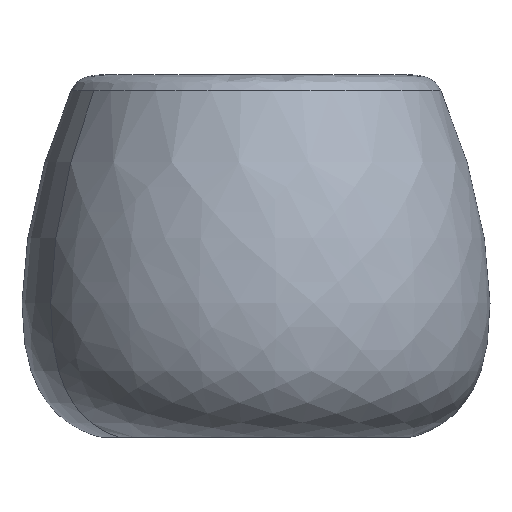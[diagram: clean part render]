
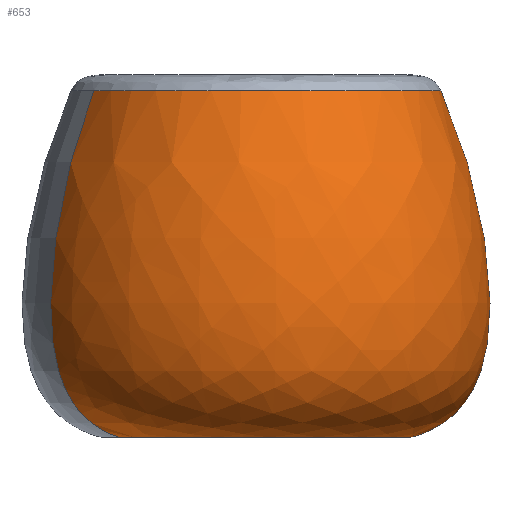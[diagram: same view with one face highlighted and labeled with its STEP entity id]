
A CAD part, left-side view. The second image highlights one B-rep face of the part: STEP entity #653.
In plain terms, the highlighted face is a revolution surface.
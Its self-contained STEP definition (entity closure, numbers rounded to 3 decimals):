
#482=CARTESIAN_POINT('Vertex',(0.,-170.8,0.206)) ;
#485=CARTESIAN_POINT('Axis2P3D Location',(0.,0.,0.206)) ;
#489=CARTESIAN_POINT('Vertex',(-81.886,149.891,0.206)) ;
#581=CARTESIAN_POINT('Control Point',(-97.707,178.851,382.042)) ;
#582=CARTESIAN_POINT('Control Point',(-100.501,183.966,369.379)) ;
#583=CARTESIAN_POINT('Control Point',(-103.184,188.878,355.883)) ;
#584=CARTESIAN_POINT('Control Point',(-105.755,193.584,341.56)) ;
#585=CARTESIAN_POINT('Control Point',(-118.245,216.446,264.508)) ;
#586=CARTESIAN_POINT('Control Point',(-126.847,232.192,169.407)) ;
#587=CARTESIAN_POINT('Control Point',(-129.153,236.413,88.686)) ;
#588=CARTESIAN_POINT('Control Point',(-117.224,214.577,29.882)) ;
#589=CARTESIAN_POINT('Control Point',(-88.893,162.717,4.75)) ;
#590=CARTESIAN_POINT('Control Point',(-86.652,158.615,3.041)) ;
#591=CARTESIAN_POINT('Control Point',(-84.316,154.339,1.526)) ;
#592=CARTESIAN_POINT('Control Point',(-81.886,149.891,0.206)) ;
#593=CARTESIAN_POINT('Vertex',(-97.707,178.851,382.042)) ;
#610=CARTESIAN_POINT('Control Point',(0.,203.8,382.042)) ;
#611=CARTESIAN_POINT('Control Point',(0.,209.628,369.379)) ;
#612=CARTESIAN_POINT('Control Point',(0.,215.225,355.883)) ;
#613=CARTESIAN_POINT('Control Point',(0.,220.588,341.56)) ;
#614=CARTESIAN_POINT('Control Point',(0.,246.639,264.508)) ;
#615=CARTESIAN_POINT('Control Point',(0.,264.581,169.407)) ;
#616=CARTESIAN_POINT('Control Point',(0.,269.391,88.686)) ;
#617=CARTESIAN_POINT('Control Point',(0.,244.509,29.882)) ;
#618=CARTESIAN_POINT('Control Point',(0.,185.415,4.75)) ;
#619=CARTESIAN_POINT('Control Point',(0.,180.74,3.041)) ;
#620=CARTESIAN_POINT('Control Point',(0.,175.869,1.526)) ;
#621=CARTESIAN_POINT('Control Point',(0.,170.8,0.206)) ;
#622=CARTESIAN_POINT('Axis1P Location',(0.,0.,217.5)) ;
#627=CARTESIAN_POINT('Control Point',(0.,-203.8,382.042)) ;
#628=CARTESIAN_POINT('Control Point',(0.,-209.628,369.379)) ;
#629=CARTESIAN_POINT('Control Point',(0.,-215.225,355.883)) ;
#630=CARTESIAN_POINT('Control Point',(0.,-220.588,341.56)) ;
#631=CARTESIAN_POINT('Control Point',(0.,-246.639,264.508)) ;
#632=CARTESIAN_POINT('Control Point',(0.,-264.581,169.407)) ;
#633=CARTESIAN_POINT('Control Point',(0.,-269.391,88.686)) ;
#634=CARTESIAN_POINT('Control Point',(0.,-244.509,29.882)) ;
#635=CARTESIAN_POINT('Control Point',(0.,-185.415,4.75)) ;
#636=CARTESIAN_POINT('Control Point',(0.,-180.74,3.041)) ;
#637=CARTESIAN_POINT('Control Point',(0.,-175.869,1.526)) ;
#638=CARTESIAN_POINT('Control Point',(0.,-170.8,0.206)) ;
#639=CARTESIAN_POINT('Vertex',(0.,-203.8,382.042)) ;
#642=CARTESIAN_POINT('Axis2P3D Location',(0.,0.,382.042)) ;
#486=DIRECTION('Axis2P3D Direction',(0.,0.,1.)) ;
#623=DIRECTION('Axis1P Direction',(0.,0.,1.)) ;
#643=DIRECTION('Axis2P3D Direction',(0.,0.,1.)) ;
#487=AXIS2_PLACEMENT_3D('Circle Axis2P3D',#485,#486,$) ;
#644=AXIS2_PLACEMENT_3D('Circle Axis2P3D',#642,#643,$) ;
#488=CIRCLE('generated circle',#487,170.8) ;
#645=CIRCLE('generated circle',#644,203.8) ;
#625=SURFACE_OF_REVOLUTION('Surface of Revolution',#609,#624) ;
#624=AXIS1_PLACEMENT('Revolution Surface Axis1P',#622,#623) ;
#491=EDGE_CURVE('',#490,#483,#488,.T.) ;
#595=EDGE_CURVE('',#490,#594,#580,.F.) ;
#641=EDGE_CURVE('',#483,#640,#626,.F.) ;
#646=EDGE_CURVE('',#594,#640,#645,.T.) ;
#648=ORIENTED_EDGE('',*,*,#641,.T.) ;
#649=ORIENTED_EDGE('',*,*,#646,.F.) ;
#650=ORIENTED_EDGE('',*,*,#595,.F.) ;
#651=ORIENTED_EDGE('',*,*,#491,.T.) ;
#647=EDGE_LOOP('',(#648,#649,#650,#651)) ;
#483=VERTEX_POINT('',#482) ;
#490=VERTEX_POINT('',#489) ;
#594=VERTEX_POINT('',#593) ;
#640=VERTEX_POINT('',#639) ;
#653=ADVANCED_FACE('Vaso-BOOM',(#652),#625,.F.) ;
#580=B_SPLINE_CURVE_WITH_KNOTS('',5,(#581,#582,#583,#584,#585,#586,#587,#588,#589,#590,#591,#592),.UNSPECIFIED.,.F.,.U.,(6,3,3,6),(21.916,103.836,439.219,466.713),.UNSPECIFIED.) ;
#609=B_SPLINE_CURVE_WITH_KNOTS('',5,(#610,#611,#612,#613,#614,#615,#616,#617,#618,#619,#620,#621),.UNSPECIFIED.,.F.,.U.,(6,3,3,6),(21.916,103.836,439.219,466.713),.UNSPECIFIED.) ;
#626=B_SPLINE_CURVE_WITH_KNOTS('',5,(#627,#628,#629,#630,#631,#632,#633,#634,#635,#636,#637,#638),.UNSPECIFIED.,.F.,.U.,(6,3,3,6),(21.916,103.836,439.219,466.713),.UNSPECIFIED.) ;
#652=FACE_OUTER_BOUND('',#647,.T.) ;
